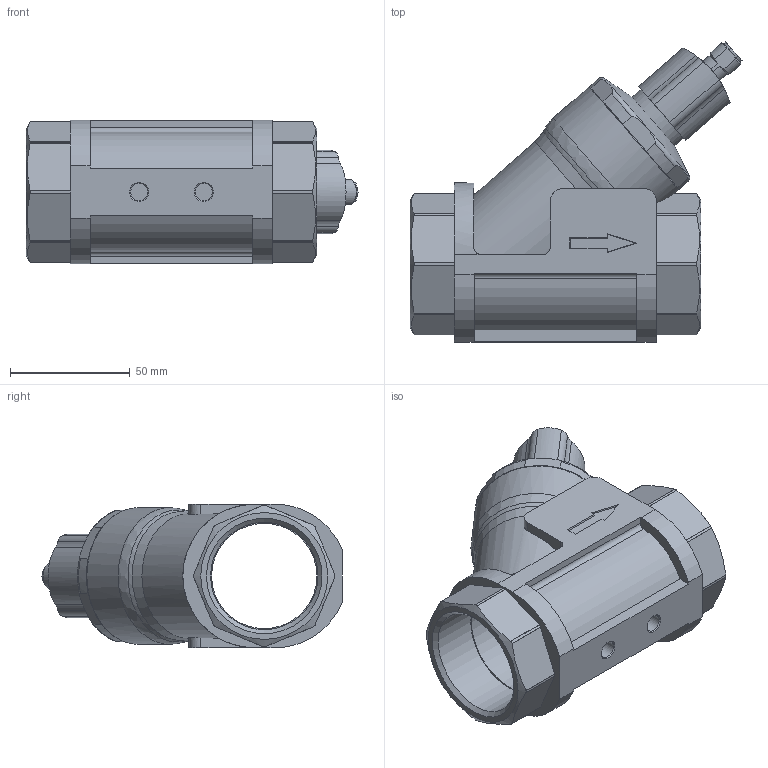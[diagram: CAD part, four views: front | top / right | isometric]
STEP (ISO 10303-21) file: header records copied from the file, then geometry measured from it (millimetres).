
FILE_DESCRIPTION(/* description */ ('STEP AP203'),/* implementation_level */ '2;1');
FILE_NAME(/* name */ 'SBY357',/* time_stamp */ '2023-06-20T13:19:24+02:00',/* author */ ('License CC BY-ND 4.0'),/* organization */ ('CADENAS'),/* preprocessor_version */ 'ST-DEVELOPER v19.3',/* originating_system */ 'PARTsolutions',/* authorisation */ ' ');
FILE_SCHEMA (('CONFIG_CONTROL_DESIGN'));
Length unit declared in the file: millimetre
Products named in the file (1): SBY357
Bounding box: 138.71 x 125.36 x 60 mm (x, y, z)
Volume: 290732.5 mm3; surface area: 57592.9 mm2
Topology: 1 solids, 1 shells, 194 faces, 524 edges, 342 vertices
Faces by surface type: cylinder 98, plane 79, cone 13, torus 4
Full cylindrical faces by diameter (mm): 7.188 x2, 8.3 x1, 10.5 x1, 10.7 x1, 27 x1, 44 x1, 44.845 x2, 57 x1
Entity records: 7563 total; most frequent: CARTESIAN_POINT 1441, ORIENTED_EDGE 994, DIRECTION 973, EDGE_CURVE 497, AXIS2_PLACEMENT_3D 373, VERTEX_POINT 335, LINE 227, VECTOR 227
